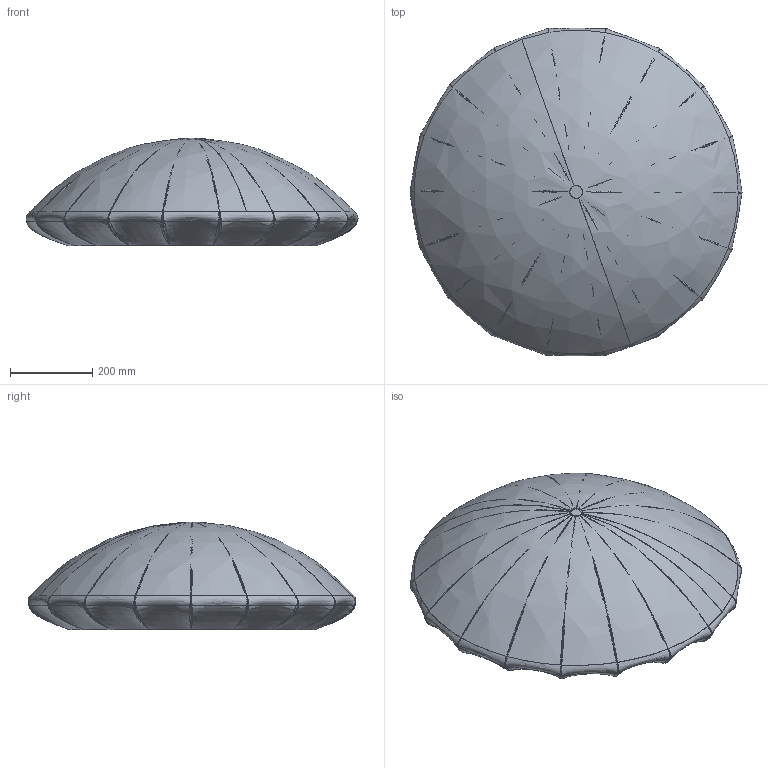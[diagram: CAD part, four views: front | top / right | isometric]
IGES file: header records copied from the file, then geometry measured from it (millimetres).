
Start section: SolidWorks IGES file using analytic representation for surfaces
Global section: file name: E:\_DESIGN\NOWOŒCI\FORM\Form_plafon_9672\9672 FORM.IGS; native system: SolidWorks 2016; preprocessor: SolidWorks 2016; author: Asia; date: 170324.152311; units: millimetre
Bounding box: 807.12 x 796.37 x 262.24 mm (x, y, z)
Surface area: 2960544.4 mm2 (no closed solid volume)
Topology: 0 solids, 0 shells, 1747 faces, 16371 edges, 16305 vertices
Faces by surface type: bspline 1082, revolution 665
